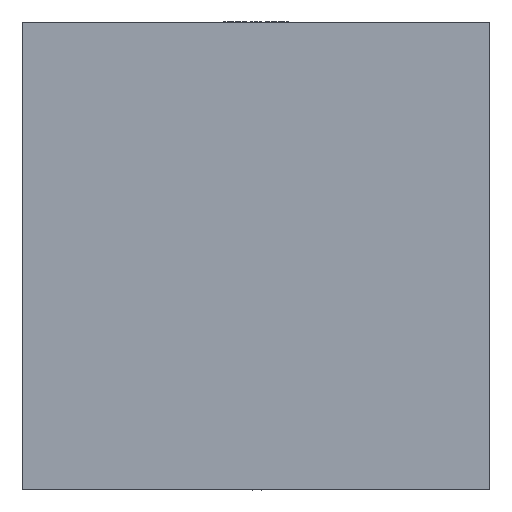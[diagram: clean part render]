
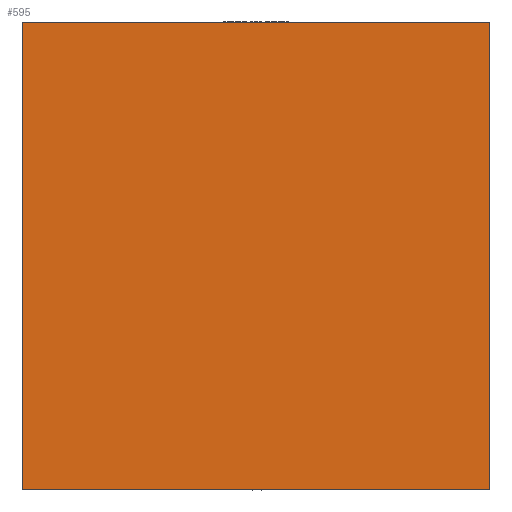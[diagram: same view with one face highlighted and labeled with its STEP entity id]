
A CAD part, left-side view. The second image highlights one B-rep face of the part: STEP entity #595.
In plain terms, the highlighted planar face has unit normal (-1, 0, 0).
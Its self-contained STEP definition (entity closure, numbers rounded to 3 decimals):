
#93=FACE_OUTER_BOUND('',#127,.T.);
#127=EDGE_LOOP('',(#456,#457,#458,#459));
#177=LINE('',#932,#229);
#179=LINE('',#938,#231);
#182=LINE('',#943,#234);
#183=LINE('',#944,#235);
#229=VECTOR('',#755,1.);
#231=VECTOR('',#759,1.);
#234=VECTOR('',#764,1.);
#235=VECTOR('',#765,1.);
#284=VERTEX_POINT('',#925);
#287=VERTEX_POINT('',#930);
#288=VERTEX_POINT('',#934);
#290=VERTEX_POINT('',#937);
#353=EDGE_CURVE('',#287,#284,#177,.T.);
#355=EDGE_CURVE('',#290,#288,#179,.T.);
#358=EDGE_CURVE('',#288,#284,#182,.T.);
#359=EDGE_CURVE('',#290,#287,#183,.T.);
#456=ORIENTED_EDGE('',*,*,#355,.T.);
#457=ORIENTED_EDGE('',*,*,#358,.T.);
#458=ORIENTED_EDGE('',*,*,#353,.F.);
#459=ORIENTED_EDGE('',*,*,#359,.F.);
#573=PLANE('',#643);
#595=ADVANCED_FACE('',(#93),#573,.F.);
#643=AXIS2_PLACEMENT_3D('',#942,#762,#763);
#755=DIRECTION('',(0.,0.,-1.));
#759=DIRECTION('',(0.,0.,-1.));
#762=DIRECTION('center_axis',(1.,0.,0.));
#763=DIRECTION('ref_axis',(0.,1.,0.));
#764=DIRECTION('',(0.,-1.,0.));
#765=DIRECTION('',(0.,-1.,0.));
#925=CARTESIAN_POINT('',(-165.,-60.,0.));
#930=CARTESIAN_POINT('',(-165.,-60.,120.));
#932=CARTESIAN_POINT('',(-165.,-60.,120.));
#934=CARTESIAN_POINT('',(-165.,60.,0.));
#937=CARTESIAN_POINT('',(-165.,60.,120.));
#938=CARTESIAN_POINT('',(-165.,60.,120.));
#942=CARTESIAN_POINT('Origin',(-165.,-58.5,120.));
#943=CARTESIAN_POINT('',(-165.,-58.5,0.));
#944=CARTESIAN_POINT('',(-165.,61.5,120.));
